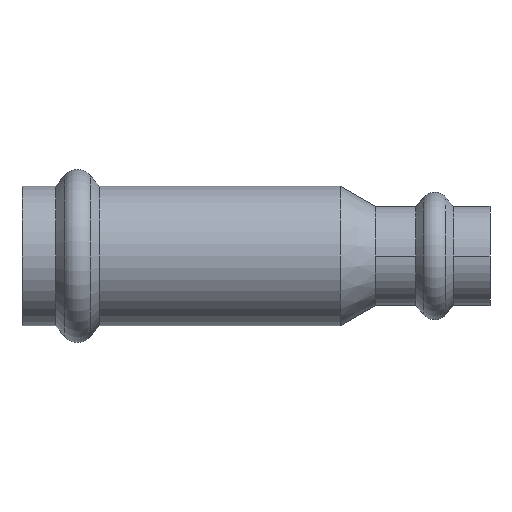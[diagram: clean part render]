
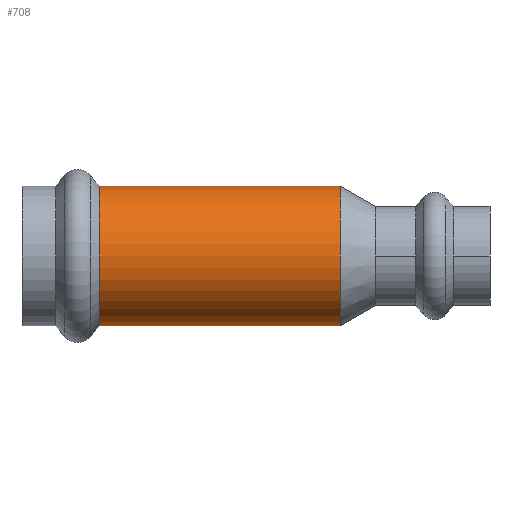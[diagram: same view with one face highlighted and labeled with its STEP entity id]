
A CAD part, front view. The second image highlights one B-rep face of the part: STEP entity #708.
In plain terms, the highlighted cylindrical face has radius 12.6 mm (diameter 25.2 mm), a partial arc.
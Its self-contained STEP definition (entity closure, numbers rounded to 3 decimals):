
#27 = EDGE_CURVE ( 'NONE', #1227, #2346, #937, .T. ) ;
#448 = CARTESIAN_POINT ( 'NONE',  ( -26.572, 0., 12.6 ) ) ;
#453 = VERTEX_POINT ( 'NONE', #984 ) ;
#587 = CYLINDRICAL_SURFACE ( 'NONE', #2689, 12.6 ) ;
#692 = FACE_OUTER_BOUND ( 'NONE', #2391, .T. ) ;
#708 = ADVANCED_FACE ( 'NONE', ( #692 ), #587, .T. ) ;
#715 = EDGE_CURVE ( 'NONE', #2150, #1227, #3335, .T. ) ;
#937 = CIRCLE ( 'NONE', #2168, 12.6 ) ;
#984 = CARTESIAN_POINT ( 'NONE',  ( 16.923, 0., -12.6 ) ) ;
#1014 = CARTESIAN_POINT ( 'NONE',  ( -58.611, 0., 12.6 ) ) ;
#1110 = ORIENTED_EDGE ( 'NONE', *, *, #2871, .F. ) ;
#1227 = VERTEX_POINT ( 'NONE', #448 ) ;
#1605 = CARTESIAN_POINT ( 'NONE',  ( -58.611, 0., -12.6 ) ) ;
#1666 = DIRECTION ( 'NONE',  ( -1., 0., 0. ) ) ;
#1745 = DIRECTION ( 'NONE',  ( 1., 0., 0. ) ) ;
#1962 = EDGE_CURVE ( 'NONE', #2150, #453, #2838, .T. ) ;
#2065 = DIRECTION ( 'NONE',  ( -1., 0., 0. ) ) ;
#2125 = AXIS2_PLACEMENT_3D ( 'NONE', #3794, #1745, #4152 ) ;
#2150 = VERTEX_POINT ( 'NONE', #2485 ) ;
#2158 = ORIENTED_EDGE ( 'NONE', *, *, #1962, .F. ) ;
#2165 = LINE ( 'NONE', #1605, #2269 ) ;
#2168 = AXIS2_PLACEMENT_3D ( 'NONE', #2611, #3299, #3479 ) ;
#2269 = VECTOR ( 'NONE', #4000, 1000. ) ;
#2346 = VERTEX_POINT ( 'NONE', #3271 ) ;
#2391 = EDGE_LOOP ( 'NONE', ( #1110, #2158, #4330, #4127 ) ) ;
#2485 = CARTESIAN_POINT ( 'NONE',  ( 16.923, 0., 12.6 ) ) ;
#2611 = CARTESIAN_POINT ( 'NONE',  ( -26.572, 0., 0. ) ) ;
#2689 = AXIS2_PLACEMENT_3D ( 'NONE', #3426, #1666, #3078 ) ;
#2838 = CIRCLE ( 'NONE', #2125, 12.6 ) ;
#2871 = EDGE_CURVE ( 'NONE', #453, #2346, #2165, .T. ) ;
#3078 = DIRECTION ( 'NONE',  ( 0., 0., 1. ) ) ;
#3271 = CARTESIAN_POINT ( 'NONE',  ( -26.572, 0., -12.6 ) ) ;
#3299 = DIRECTION ( 'NONE',  ( 1., 0., 0. ) ) ;
#3335 = LINE ( 'NONE', #1014, #4235 ) ;
#3426 = CARTESIAN_POINT ( 'NONE',  ( -58.611, 0., 0. ) ) ;
#3479 = DIRECTION ( 'NONE',  ( 0., 0., 1. ) ) ;
#3794 = CARTESIAN_POINT ( 'NONE',  ( 16.923, 0., 0. ) ) ;
#4000 = DIRECTION ( 'NONE',  ( -1., 0., 0. ) ) ;
#4127 = ORIENTED_EDGE ( 'NONE', *, *, #27, .T. ) ;
#4152 = DIRECTION ( 'NONE',  ( 0., 0., 1. ) ) ;
#4235 = VECTOR ( 'NONE', #2065, 1000. ) ;
#4330 = ORIENTED_EDGE ( 'NONE', *, *, #715, .T. ) ;
